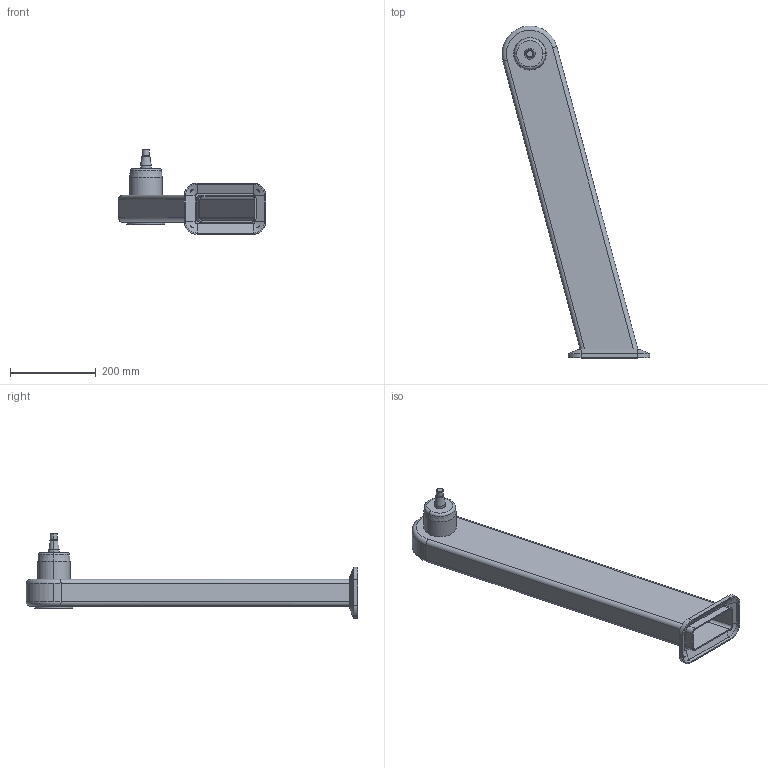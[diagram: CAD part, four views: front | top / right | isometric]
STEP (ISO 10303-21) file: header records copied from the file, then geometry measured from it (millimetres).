
FILE_DESCRIPTION (( 'STEP AP214' ), '1' );
FILE_NAME ('WP710_H710_-15.STEP', '2014-06-27T07:54:39', ( '' ), ( '' ), 'SwSTEP 2.0', 'SolidWorks 2014', '' );
FILE_SCHEMA (( 'AUTOMOTIVE_DESIGN' ));
Length unit declared in the file: millimetre
Products named in the file (1): WP710_H710_-15
Bounding box: 345.38 x 774.93 x 198 mm (x, y, z)
Volume: 1273508.2 mm3; surface area: 634166.5 mm2
Topology: 1 solids, 1 shells, 112 faces, 250 edges, 152 vertices
Faces by surface type: cylinder 44, plane 40, cone 20, torus 8
Entity records: 3211 total; most frequent: CARTESIAN_POINT 668, DIRECTION 552, ORIENTED_EDGE 500, EDGE_CURVE 250, AXIS2_PLACEMENT_3D 211, VERTEX_POINT 152, VECTOR 130, LINE 130
